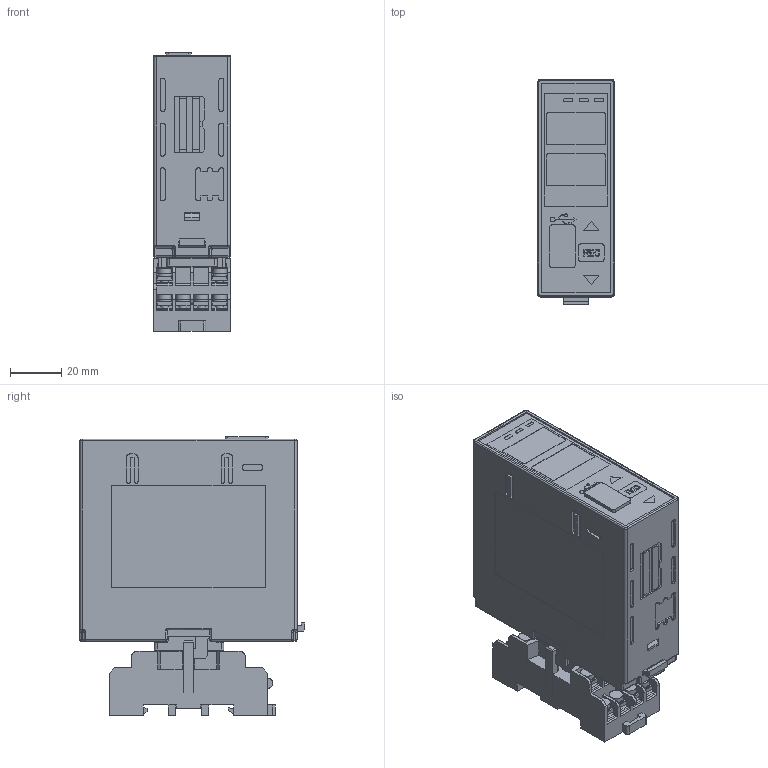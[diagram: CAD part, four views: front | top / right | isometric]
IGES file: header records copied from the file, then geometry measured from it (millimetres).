
Start section: SolidWorks IGES file using analytic representation for surfaces
Global section: file name: C:\Users\kawanishi.SHINKO-TECHNOS\かわにし\3D データ\LUL1\D18-025\HP_3D\LUL1_solidworks\LUL1_251223.IGS; native system: SolidWorks 2022; preprocessor: SolidWorks 2022; author: kawanishi; date: 251223.153313; units: millimetre
Bounding box: 30 x 88.37 x 109 mm (x, y, z)
Surface area: 38893.1 mm2 (no closed solid volume)
Topology: 0 solids, 0 shells, 1325 faces, 12828 edges, 12812 vertices
Faces by surface type: bspline 945, revolution 380
